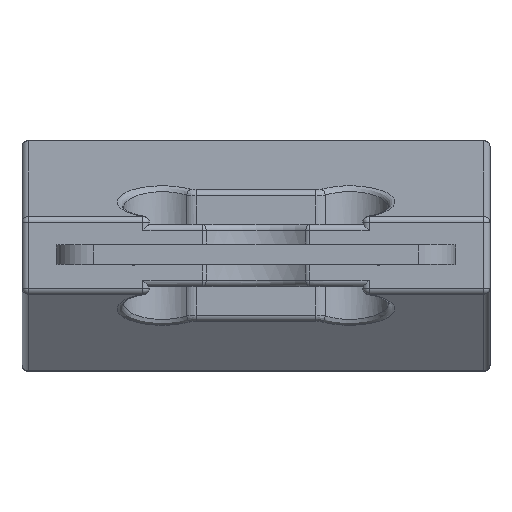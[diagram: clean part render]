
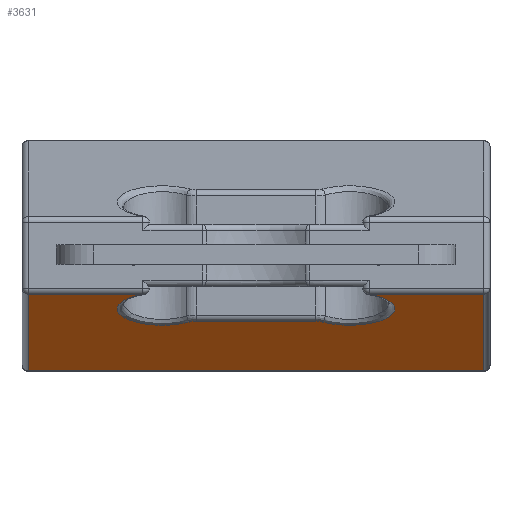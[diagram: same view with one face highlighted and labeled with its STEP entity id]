
A CAD part, top view. The second image highlights one B-rep face of the part: STEP entity #3631.
In plain terms, the highlighted planar face has unit normal (0, -0.942, 0.336) as drawn and (0, 0.336, -0.942) by its records, which use the part's own axes.
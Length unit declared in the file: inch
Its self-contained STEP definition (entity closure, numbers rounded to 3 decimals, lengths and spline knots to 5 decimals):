
#86=ELLIPSE('',#4071,0.07698,0.0725);
#88=ELLIPSE('',#4074,0.01593,0.015);
#90=ELLIPSE('',#4079,0.01593,0.015);
#92=ELLIPSE('',#4082,0.07698,0.0725);
#190=PLANE('',#4144);
#399=FACE_OUTER_BOUND('',#625,.T.);
#625=EDGE_LOOP('',(#3201,#3202,#3203,#3204,#3205,#3206,#3207,#3208,#3209,
#3210,#3211,#3212));
#851=LINE('',#6592,#1129);
#853=LINE('',#6595,#1131);
#857=LINE('',#6601,#1135);
#859=LINE('',#6604,#1137);
#863=LINE('',#6615,#1141);
#869=LINE('',#6650,#1147);
#871=LINE('',#6726,#1149);
#873=LINE('',#6804,#1151);
#1129=VECTOR('',#5065,0.3937);
#1131=VECTOR('',#5069,0.3937);
#1135=VECTOR('',#5077,0.3937);
#1137=VECTOR('',#5081,0.3937);
#1141=VECTOR('',#5093,0.3937);
#1147=VECTOR('',#5111,0.3937);
#1149=VECTOR('',#5129,0.3937);
#1151=VECTOR('',#5145,0.3937);
#1524=VERTEX_POINT('',#5727);
#1531=VERTEX_POINT('',#5744);
#1536=VERTEX_POINT('',#5756);
#1560=VERTEX_POINT('',#5960);
#1569=VERTEX_POINT('',#5993);
#1576=VERTEX_POINT('',#6014);
#1677=VERTEX_POINT('',#6648);
#1679=VERTEX_POINT('',#6693);
#1681=VERTEX_POINT('',#6718);
#1683=VERTEX_POINT('',#6724);
#1685=VERTEX_POINT('',#6749);
#1687=VERTEX_POINT('',#6799);
#2131=EDGE_CURVE('',#1569,#1576,#851,.T.);
#2133=EDGE_CURVE('',#1576,#1560,#853,.T.);
#2137=EDGE_CURVE('',#1536,#1569,#857,.T.);
#2139=EDGE_CURVE('',#1560,#1531,#859,.T.);
#2145=EDGE_CURVE('',#1524,#1536,#863,.T.);
#2156=EDGE_CURVE('',#1677,#1524,#869,.T.);
#2159=EDGE_CURVE('',#1679,#1677,#86,.T.);
#2162=EDGE_CURVE('',#1681,#1679,#88,.T.);
#2165=EDGE_CURVE('',#1683,#1681,#871,.T.);
#2168=EDGE_CURVE('',#1685,#1683,#90,.T.);
#2171=EDGE_CURVE('',#1687,#1685,#92,.T.);
#2173=EDGE_CURVE('',#1531,#1687,#873,.T.);
#3201=ORIENTED_EDGE('',*,*,#2131,.F.);
#3202=ORIENTED_EDGE('',*,*,#2137,.F.);
#3203=ORIENTED_EDGE('',*,*,#2145,.F.);
#3204=ORIENTED_EDGE('',*,*,#2156,.F.);
#3205=ORIENTED_EDGE('',*,*,#2159,.F.);
#3206=ORIENTED_EDGE('',*,*,#2162,.F.);
#3207=ORIENTED_EDGE('',*,*,#2165,.F.);
#3208=ORIENTED_EDGE('',*,*,#2168,.F.);
#3209=ORIENTED_EDGE('',*,*,#2171,.F.);
#3210=ORIENTED_EDGE('',*,*,#2173,.F.);
#3211=ORIENTED_EDGE('',*,*,#2139,.F.);
#3212=ORIENTED_EDGE('',*,*,#2133,.F.);
#3631=ADVANCED_FACE('',(#399),#190,.T.);
#4071=AXIS2_PLACEMENT_3D('',#6695,#5115,#5116);
#4074=AXIS2_PLACEMENT_3D('',#6720,#5121,#5122);
#4079=AXIS2_PLACEMENT_3D('',#6751,#5133,#5134);
#4082=AXIS2_PLACEMENT_3D('',#6801,#5139,#5140);
#4144=AXIS2_PLACEMENT_3D('',#6960,#5302,#5303);
#5065=DIRECTION('',(1.,0.,0.));
#5069=DIRECTION('',(0.,0.942,0.336));
#5077=DIRECTION('',(0.,-0.942,-0.336));
#5081=DIRECTION('',(-1.,0.,0.));
#5093=DIRECTION('',(-1.,0.,0.));
#5111=DIRECTION('',(0.86,0.481,0.172));
#5115=DIRECTION('center_axis',(0.,0.336,
-0.942));
#5116=DIRECTION('ref_axis',(0.,-0.942,-0.336));
#5121=DIRECTION('center_axis',(0.,-0.336,
0.942));
#5122=DIRECTION('ref_axis',(0.,0.942,0.336));
#5129=DIRECTION('',(-1.,0.,0.));
#5133=DIRECTION('center_axis',(0.,-0.336,
0.942));
#5134=DIRECTION('ref_axis',(0.,0.942,0.336));
#5139=DIRECTION('center_axis',(0.,0.336,
-0.942));
#5140=DIRECTION('ref_axis',(0.,-0.942,-0.336));
#5145=DIRECTION('',(0.86,-0.481,-0.172));
#5302=DIRECTION('center_axis',(0.,0.336,
-0.942));
#5303=DIRECTION('ref_axis',(-1.,0.,0.));
#5727=CARTESIAN_POINT('',(-0.18113,0.56836,-0.06237));
#5744=CARTESIAN_POINT('',(0.18113,0.56836,-0.06237));
#5756=CARTESIAN_POINT('',(-0.365,0.56836,-0.06237));
#5960=CARTESIAN_POINT('',(0.365,0.56836,-0.06237));
#5993=CARTESIAN_POINT('',(-0.365,0.22663,-0.18442));
#6014=CARTESIAN_POINT('',(0.365,0.22663,-0.18442));
#6592=CARTESIAN_POINT('',(0.09375,0.22663,-0.18442));
#6595=CARTESIAN_POINT('',(0.365,-0.01295,-0.26998));
#6601=CARTESIAN_POINT('',(-0.365,0.497,-0.08786));
#6604=CARTESIAN_POINT('',(0.28125,0.56836,-0.06237));
#6615=CARTESIAN_POINT('',(0.28125,0.56836,-0.06237));
#6648=CARTESIAN_POINT('',(-0.18541,0.56597,-0.06323));
#6650=CARTESIAN_POINT('',(-0.07769,0.62626,-0.04169));
#6693=CARTESIAN_POINT('',(-0.10516,0.44573,-0.10617));
#6695=CARTESIAN_POINT('Origin',(-0.15,0.5027,-0.08582));
#6718=CARTESIAN_POINT('',(-0.09588,0.44895,-0.10502));
#6720=CARTESIAN_POINT('Origin',(-0.09588,0.43395,-0.11038));
#6724=CARTESIAN_POINT('',(0.09588,0.44895,-0.10502));
#6726=CARTESIAN_POINT('',(0.09375,0.44895,-0.10502));
#6749=CARTESIAN_POINT('',(0.10516,0.44573,-0.10617));
#6751=CARTESIAN_POINT('Origin',(0.09588,0.43395,-0.11038));
#6799=CARTESIAN_POINT('',(0.18541,0.56597,-0.06323));
#6801=CARTESIAN_POINT('Origin',(0.15,0.5027,-0.08582));
#6804=CARTESIAN_POINT('',(0.23457,0.53846,-0.07305));
#6960=CARTESIAN_POINT('Origin',(0.1875,0.4,-0.1225));
